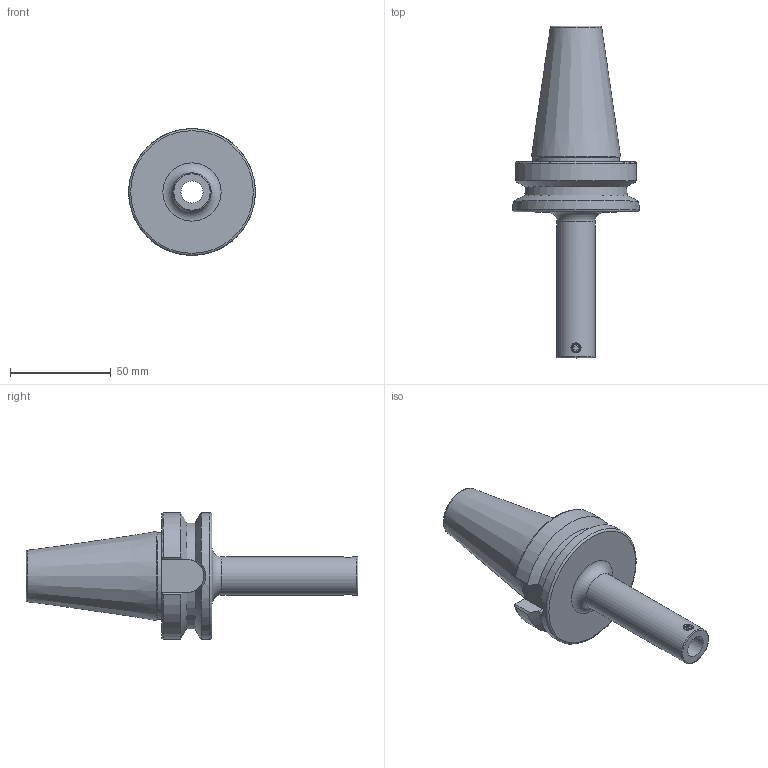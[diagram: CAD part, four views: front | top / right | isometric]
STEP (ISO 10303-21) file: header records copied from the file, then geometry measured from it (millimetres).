
FILE_DESCRIPTION(/* description */ (''),/* implementation_level */ '2;1');
FILE_NAME(/* name */ 'BT40-LBK1-105.stp',/* time_stamp */ '2025-05-23T08:54:48+03:00',/* author */ ('User'),/* organization */ (''),/* preprocessor_version */ 'ST-DEVELOPER v19.2',/* originating_system */ 'Autodesk Inventor 2024',/* authorisation */ '');
FILE_SCHEMA (('AUTOMOTIVE_DESIGN { 1 0 10303 214 3 1 1 }'));
Length unit declared in the file: millimetre
Products named in the file (1): BT40-FMB22-100L
Bounding box: 63 x 165 x 63 mm (x, y, z)
Volume: 132898.1 mm3; surface area: 29400.6 mm2
Topology: 1 solids, 1 shells, 72 faces, 181 edges, 122 vertices
Faces by surface type: plane 35, cylinder 16, bspline 8, cone 7, torus 6
Full cylindrical faces by diameter (mm): 3.8 x2, 4 x2, 11 x1, 14.7 x1, 17 x1, 19 x1, 43 x1, 63 x1
Entity records: 2761 total; most frequent: CARTESIAN_POINT 1034, ORIENTED_EDGE 362, DIRECTION 305, EDGE_CURVE 181, VERTEX_POINT 122, AXIS2_PLACEMENT_3D 114, EDGE_LOOP 85, LINE 77
